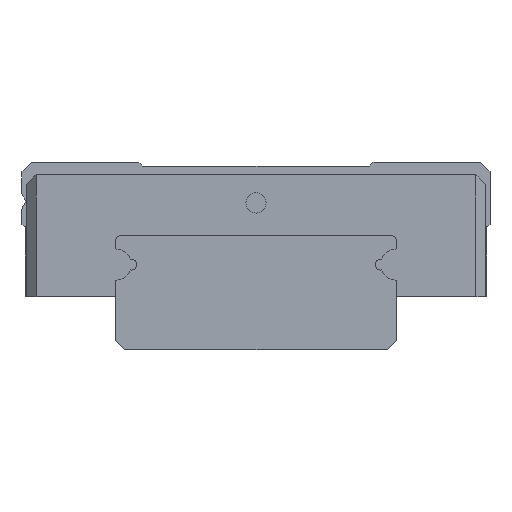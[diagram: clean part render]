
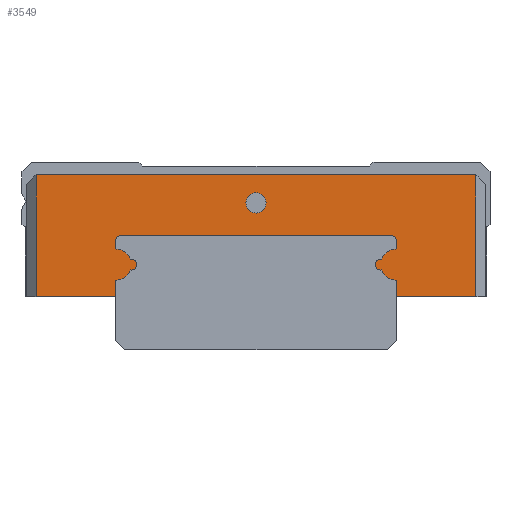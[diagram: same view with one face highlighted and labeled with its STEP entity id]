
A CAD part, left-side view. The second image highlights one B-rep face of the part: STEP entity #3549.
In plain terms, the highlighted planar face has unit normal (-1, 0, 0).
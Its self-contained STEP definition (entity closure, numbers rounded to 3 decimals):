
#1480=CARTESIAN_POINT('',(0.0,-14.1,3.4));
#1481=VERTEX_POINT('',#1480);
#1488=CARTESIAN_POINT('',(0.0,-9.,3.4));
#1489=VERTEX_POINT('',#1488);
#1490=CARTESIAN_POINT('',(0.0,-9.,3.4));
#1491=DIRECTION('',(0.0,-1.0,0.0));
#1492=VECTOR('',#1491,5.1);
#1493=LINE('',#1490,#1492);
#1494=EDGE_CURVE('',#1489,#1481,#1493,.T.);
#1591=CARTESIAN_POINT('',(0.0,14.1,11.2));
#1592=VERTEX_POINT('',#1591);
#1599=CARTESIAN_POINT('',(0.0,-14.1,11.2));
#1600=VERTEX_POINT('',#1599);
#1601=CARTESIAN_POINT('',(0.0,-14.1,11.2));
#1602=DIRECTION('',(0.0,1.0,0.0));
#1603=VECTOR('',#1602,28.2);
#1604=LINE('',#1601,#1603);
#1605=EDGE_CURVE('',#1600,#1592,#1604,.T.);
#1733=CARTESIAN_POINT('',(0.0,9.0,3.4));
#1734=VERTEX_POINT('',#1733);
#1741=CARTESIAN_POINT('',(0.0,14.1,3.4));
#1742=VERTEX_POINT('',#1741);
#1743=CARTESIAN_POINT('',(0.0,14.1,3.4));
#1744=DIRECTION('',(0.0,-1.0,0.0));
#1745=VECTOR('',#1744,5.1);
#1746=LINE('',#1743,#1745);
#1747=EDGE_CURVE('',#1742,#1734,#1746,.T.);
#2022=CARTESIAN_POINT('',(0.0,0.65,9.4));
#2023=VERTEX_POINT('',#2022);
#2024=CARTESIAN_POINT('',(0.0,0.0,9.4));
#2025=DIRECTION('',(1.0,0.0,0.0));
#2026=DIRECTION('',(0.0,-1.0,0.0));
#2027=AXIS2_PLACEMENT_3D('',#2024,#2025,#2026);
#2028=CIRCLE('',#2027,0.65);
#2029=EDGE_CURVE('',#2023,#2023,#2028,.T.);
#3021=CARTESIAN_POINT('',(0.0,14.1,11.2));
#3022=DIRECTION('',(0.0,0.0,-1.0));
#3023=VECTOR('',#3022,7.8);
#3024=LINE('',#3021,#3023);
#3025=EDGE_CURVE('',#1592,#1742,#3024,.T.);
#3055=CARTESIAN_POINT('',(0.0,-14.1,3.4));
#3056=DIRECTION('',(0.0,0.0,1.0));
#3057=VECTOR('',#3056,7.8);
#3058=LINE('',#3055,#3057);
#3059=EDGE_CURVE('',#1481,#1600,#3058,.T.);
#3095=CARTESIAN_POINT('',(0.0,9.,4.45));
#3096=VERTEX_POINT('',#3095);
#3103=CARTESIAN_POINT('',(0.0,9.0,3.4));
#3104=DIRECTION('',(0.0,0.0,1.0));
#3105=VECTOR('',#3104,1.05);
#3106=LINE('',#3103,#3105);
#3107=EDGE_CURVE('',#1734,#3096,#3106,.T.);
#3127=CARTESIAN_POINT('',(0.0,8.061,5.105));
#3128=VERTEX_POINT('',#3127);
#3135=CARTESIAN_POINT('',(0.0,9.0,5.45));
#3136=DIRECTION('',(-1.,0.0,0.0));
#3137=DIRECTION('',(0.0,0.939,0.345));
#3138=AXIS2_PLACEMENT_3D('',#3135,#3136,#3137);
#3139=CIRCLE('',#3138,1.0);
#3140=EDGE_CURVE('',#3096,#3128,#3139,.T.);
#3160=CARTESIAN_POINT('',(0.0,8.061,5.795));
#3161=VERTEX_POINT('',#3160);
#3168=CARTESIAN_POINT('',(0.0,8.0,5.45));
#3169=DIRECTION('',(-1.0,0.0,0.0));
#3170=DIRECTION('',(0.0,-0.175,-0.985));
#3171=AXIS2_PLACEMENT_3D('',#3168,#3169,#3170);
#3172=CIRCLE('',#3171,0.35);
#3173=EDGE_CURVE('',#3128,#3161,#3172,.T.);
#3193=CARTESIAN_POINT('',(0.0,9.0,6.45));
#3194=VERTEX_POINT('',#3193);
#3201=CARTESIAN_POINT('',(0.0,9.0,5.45));
#3202=DIRECTION('',(-1.0,0.0,0.0));
#3203=DIRECTION('',(0.0,0.0,-1.0));
#3204=AXIS2_PLACEMENT_3D('',#3201,#3202,#3203);
#3205=CIRCLE('',#3204,1.0);
#3206=EDGE_CURVE('',#3161,#3194,#3205,.T.);
#3225=CARTESIAN_POINT('',(0.0,9.,7.));
#3226=VERTEX_POINT('',#3225);
#3233=CARTESIAN_POINT('',(0.0,9.0,6.45));
#3234=DIRECTION('',(0.0,0.0,1.0));
#3235=VECTOR('',#3234,0.55);
#3236=LINE('',#3233,#3235);
#3237=EDGE_CURVE('',#3194,#3226,#3236,.T.);
#3257=CARTESIAN_POINT('',(0.0,8.7,7.3));
#3258=VERTEX_POINT('',#3257);
#3265=CARTESIAN_POINT('',(0.0,8.7,7.));
#3266=DIRECTION('',(1.0,0.0,0.0));
#3267=DIRECTION('',(0.0,1.0,0.0));
#3268=AXIS2_PLACEMENT_3D('',#3265,#3266,#3267);
#3269=CIRCLE('',#3268,0.3);
#3270=EDGE_CURVE('',#3226,#3258,#3269,.T.);
#3289=CARTESIAN_POINT('',(0.0,-8.7,7.3));
#3290=VERTEX_POINT('',#3289);
#3297=CARTESIAN_POINT('',(0.0,8.7,7.3));
#3298=DIRECTION('',(0.0,-1.0,0.0));
#3299=VECTOR('',#3298,17.4);
#3300=LINE('',#3297,#3299);
#3301=EDGE_CURVE('',#3258,#3290,#3300,.T.);
#3321=CARTESIAN_POINT('',(0.0,-9.,7.));
#3322=VERTEX_POINT('',#3321);
#3329=CARTESIAN_POINT('',(0.0,-8.7,7.));
#3330=DIRECTION('',(1.0,0.0,0.0));
#3331=DIRECTION('',(0.0,0.0,1.0));
#3332=AXIS2_PLACEMENT_3D('',#3329,#3330,#3331);
#3333=CIRCLE('',#3332,0.3);
#3334=EDGE_CURVE('',#3290,#3322,#3333,.T.);
#3353=CARTESIAN_POINT('',(0.0,-9.,6.45));
#3354=VERTEX_POINT('',#3353);
#3361=CARTESIAN_POINT('',(0.0,-9.,7.));
#3362=DIRECTION('',(0.0,0.,-1.0));
#3363=VECTOR('',#3362,0.55);
#3364=LINE('',#3361,#3363);
#3365=EDGE_CURVE('',#3322,#3354,#3364,.T.);
#3385=CARTESIAN_POINT('',(0.0,-8.061,5.795));
#3386=VERTEX_POINT('',#3385);
#3393=CARTESIAN_POINT('',(0.0,-9.,5.45));
#3394=DIRECTION('',(-1.0,0.0,0.0));
#3395=DIRECTION('',(0.0,-0.939,-0.345));
#3396=AXIS2_PLACEMENT_3D('',#3393,#3394,#3395);
#3397=CIRCLE('',#3396,1.0);
#3398=EDGE_CURVE('',#3354,#3386,#3397,.T.);
#3418=CARTESIAN_POINT('',(0.0,-8.061,5.105));
#3419=VERTEX_POINT('',#3418);
#3426=CARTESIAN_POINT('',(0.0,-8.,5.45));
#3427=DIRECTION('',(-1.0,0.0,0.0));
#3428=DIRECTION('',(0.0,0.175,0.985));
#3429=AXIS2_PLACEMENT_3D('',#3426,#3427,#3428);
#3430=CIRCLE('',#3429,0.35);
#3431=EDGE_CURVE('',#3386,#3419,#3430,.T.);
#3451=CARTESIAN_POINT('',(0.0,-9.,4.45));
#3452=VERTEX_POINT('',#3451);
#3459=CARTESIAN_POINT('',(0.0,-9.,5.45));
#3460=DIRECTION('',(-1.0,0.0,0.0));
#3461=DIRECTION('',(0.0,0.0,1.0));
#3462=AXIS2_PLACEMENT_3D('',#3459,#3460,#3461);
#3463=CIRCLE('',#3462,1.0);
#3464=EDGE_CURVE('',#3419,#3452,#3463,.T.);
#3482=CARTESIAN_POINT('',(0.0,-9.,4.45));
#3483=DIRECTION('',(0.0,0.0,-1.0));
#3484=VECTOR('',#3483,1.05);
#3485=LINE('',#3482,#3484);
#3486=EDGE_CURVE('',#3452,#1489,#3485,.T.);
#3521=CARTESIAN_POINT('',(0.0,0.,7.889));
#3522=DIRECTION('',(1.0,0.0,0.0));
#3523=DIRECTION('',(0.0,0.0,-1.0));
#3524=AXIS2_PLACEMENT_3D('',#3521,#3522,#3523);
#3525=PLANE('',#3524);
#3526=ORIENTED_EDGE('',*,*,#1494,.T.);
#3527=ORIENTED_EDGE('',*,*,#3059,.T.);
#3528=ORIENTED_EDGE('',*,*,#1605,.T.);
#3529=ORIENTED_EDGE('',*,*,#3025,.T.);
#3530=ORIENTED_EDGE('',*,*,#1747,.T.);
#3531=ORIENTED_EDGE('',*,*,#3107,.T.);
#3532=ORIENTED_EDGE('',*,*,#3140,.T.);
#3533=ORIENTED_EDGE('',*,*,#3173,.T.);
#3534=ORIENTED_EDGE('',*,*,#3206,.T.);
#3535=ORIENTED_EDGE('',*,*,#3237,.T.);
#3536=ORIENTED_EDGE('',*,*,#3270,.T.);
#3537=ORIENTED_EDGE('',*,*,#3301,.T.);
#3538=ORIENTED_EDGE('',*,*,#3334,.T.);
#3539=ORIENTED_EDGE('',*,*,#3365,.T.);
#3540=ORIENTED_EDGE('',*,*,#3398,.T.);
#3541=ORIENTED_EDGE('',*,*,#3431,.T.);
#3542=ORIENTED_EDGE('',*,*,#3464,.T.);
#3543=ORIENTED_EDGE('',*,*,#3486,.T.);
#3544=EDGE_LOOP('',(#3526,#3527,#3528,#3529,#3530,#3531,#3532,#3533,#3534,#3535,#3536,#3537,#3538,#3539,#3540,#3541,#3542,#3543));
#3545=FACE_OUTER_BOUND('',#3544,.T.);
#3546=ORIENTED_EDGE('',*,*,#2029,.T.);
#3547=EDGE_LOOP('',(#3546));
#3548=FACE_BOUND('',#3547,.T.);
#3549=ADVANCED_FACE('',(#3545,#3548),#3525,.F.);
